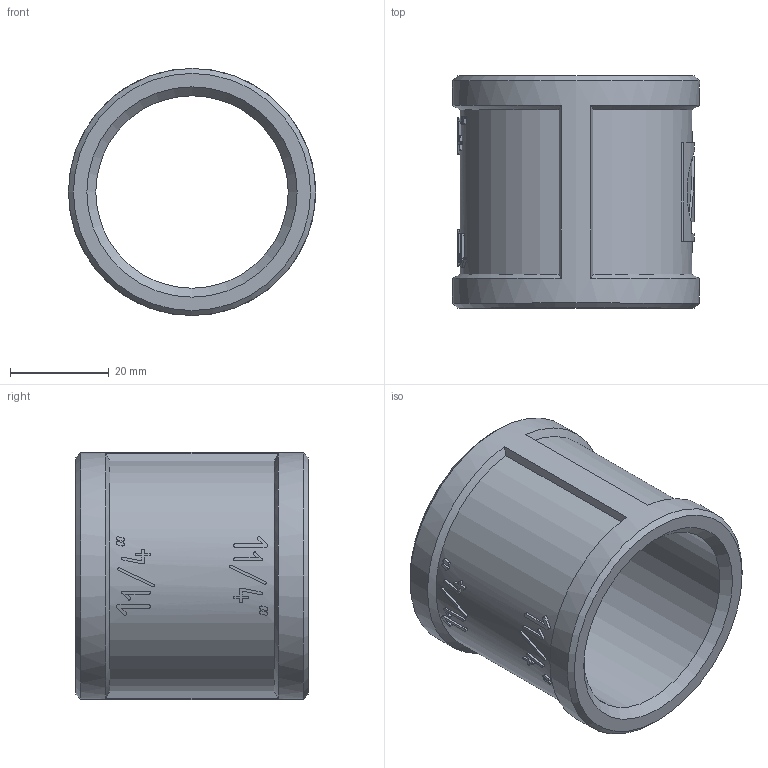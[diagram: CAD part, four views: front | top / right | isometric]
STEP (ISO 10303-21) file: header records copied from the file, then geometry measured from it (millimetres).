
FILE_DESCRIPTION(('STEP AP203'), '1');
FILE_NAME('ﾂﾐ.713461.004 - VTr.270.N.0007 ﾌ G1 1-4', '2024-06-27T12:55:40', ('Boss'), (''), 'C3D Converter', 'C3D Toolkit', '');
FILE_SCHEMA(('CONFIG_CONTROL_DESIGN'));
Length unit declared in the file: millimetre
Products named in the file (1): ВР.713461.004
Bounding box: 50 x 47 x 50 mm (x, y, z)
Volume: 28704 mm3; surface area: 14504.7 mm2
Topology: 1 solids, 1 shells, 240 faces, 662 edges, 440 vertices
Faces by surface type: extrusion 126, plane 86, cylinder 20, cone 8
Full cylindrical faces by diameter (mm): 38.953 x1, 50 x1
Entity records: 10430 total; most frequent: CARTESIAN_POINT 5034, ORIENTED_EDGE 1310, DIRECTION 707, EDGE_CURVE 655, VERTEX_POINT 440, B_SPLINE_CURVE_WITH_KNOTS 388, VECTOR 385, EDGE_LOOP 265
